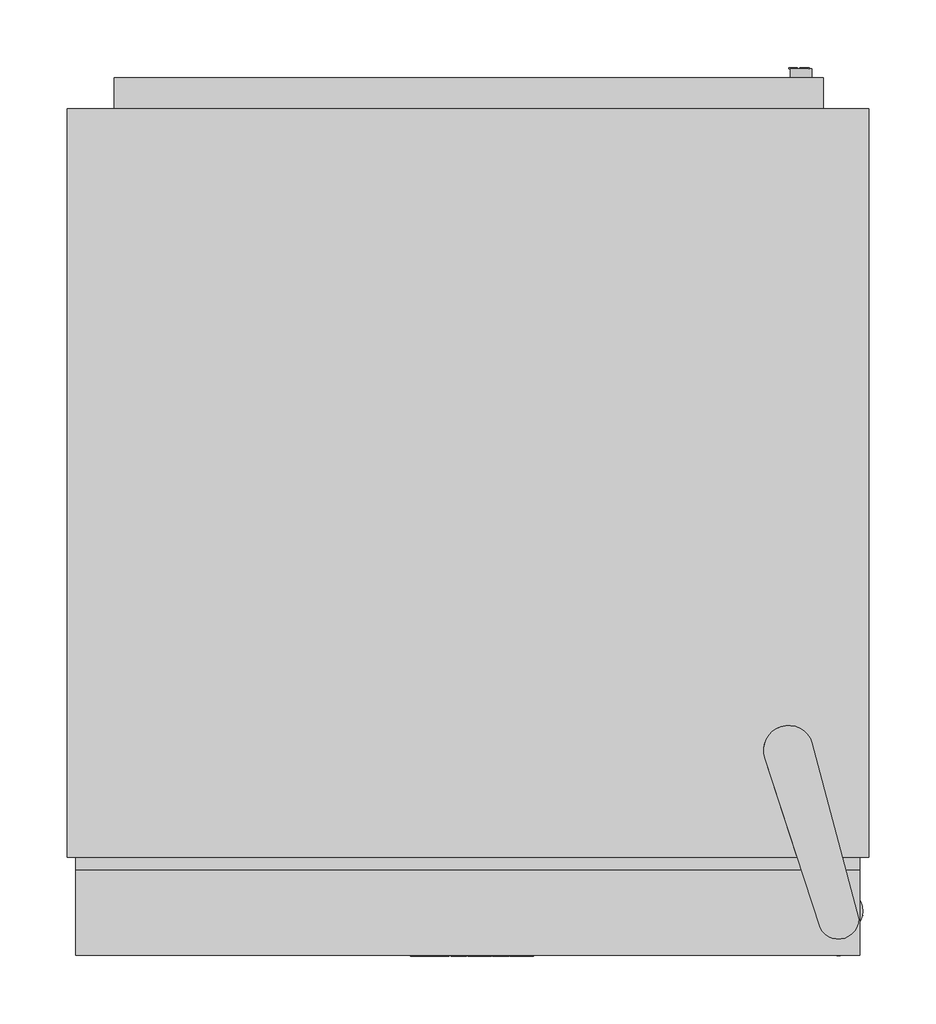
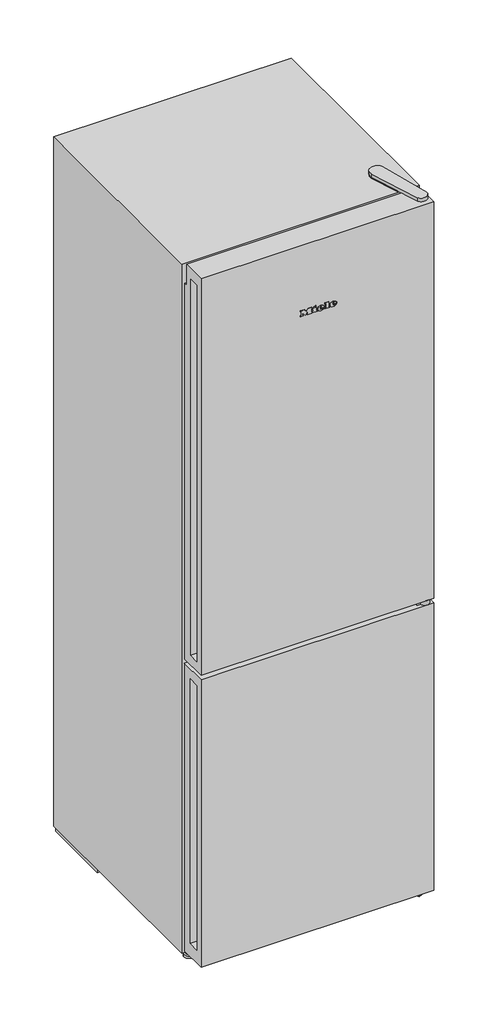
# Not in any storey: 1 proxy.
"""IFC4 building model written with IfcOpenShell, lengths in millimetres."""

import ifcopenshell
import ifcopenshell.guid

model = None  # the IFC model being written
_history = None  # IfcOwnerHistory: only IFC2X3 demands one
_inside = {}  # id of a spatial element -> (the spatial element, [elements in it])
_under = {}  # id of a project, library or spatial element -> (it, [spatial elements below it])
_declared = {}  # id of a project -> (the project, [libraries it declares])
_typed = {}  # id of a type object -> (the type object, [elements of that type])
_made_of = {}  # id of a material, layer set ... -> (it, [elements and type objects made of it])


def new_model(schema):
    """Start an empty IFC model of exactly this schema.

    Asked for "IFC4X3", IfcOpenShell would pick the latest addendum, in which some entities
    have other attributes; the version numbers below select the first issue.
    IFC2X3 requires an IfcOwnerHistory on every rooted entity: one is made here for all.
    """
    global model, _history
    if schema == "IFC4X3":
        model = ifcopenshell.file(schema_version=(4, 3, 0, 0))
    else:
        model = ifcopenshell.file(schema=schema)
    _inside.clear()
    _under.clear()
    _declared.clear()
    _typed.clear()
    _made_of.clear()
    _history = None
    if model.schema == "IFC2X3":
        org = make("IfcOrganization", Name="unknown")
        user = make(
            "IfcPersonAndOrganization",
            ThePerson=make("IfcPerson", FamilyName="unknown"),
            TheOrganization=org,
        )
        app = make(
            "IfcApplication",
            ApplicationDeveloper=org,
            Version="unknown",
            ApplicationFullName="unknown",
            ApplicationIdentifier="unknown",
        )
        _history = make(
            "IfcOwnerHistory",
            OwningUser=user,
            OwningApplication=app,
            ChangeAction="ADDED",
            CreationDate=0,
        )
    return model


def make(cls, **values):
    """One entity of the class cls with the attributes given. An attribute that is None is left unset."""
    return model.create_entity(
        cls, **{name: value for name, value in values.items() if value is not None}
    )


def rooted(cls, **values):
    """An entity with a GlobalId (a new one), such as an element, a storey or a relation."""
    return make(cls, GlobalId=ifcopenshell.guid.new(), OwnerHistory=_history, **values)


def si_unit(unit_type, name, prefix=None):
    """IfcSIUnit, for example si_unit("LENGTHUNIT", "METRE", prefix="MILLI")."""
    return make("IfcSIUnit", UnitType=unit_type, Prefix=prefix, Name=name)


def assignment(units):
    """IfcUnitAssignment: the units of a project."""
    return None if units is None else make("IfcUnitAssignment", Units=units)


def point(xyz):
    """IfcCartesianPoint."""
    return None if xyz is None else make("IfcCartesianPoint", Coordinates=xyz)


def direction(xyz):
    """IfcDirection."""
    return None if xyz is None else make("IfcDirection", DirectionRatios=xyz)


def frame(location, z_axis=None, x_axis=None):
    """IfcAxis2Placement3D, a coordinate frame: its origin and axes. An axis left out is left unset."""
    return make(
        "IfcAxis2Placement3D",
        Location=point(location),
        Axis=direction(z_axis),
        RefDirection=direction(x_axis),
    )


def frame_2d(location, x_axis=None):
    """IfcAxis2Placement2D, a coordinate frame in the plane: its origin and x axis."""
    return make(
        "IfcAxis2Placement2D", Location=point(location), RefDirection=direction(x_axis)
    )


def origin():
    """The frame at (0, 0, 0) with its axes left unset."""
    return frame((0.0, 0.0, 0.0))


def origin_with_axes():
    """The frame at (0, 0, 0) with the z axis (0, 0, 1) and the x axis (1, 0, 0) written out."""
    return frame((0.0, 0.0, 0.0), z_axis=(0.0, 0.0, 1.0), x_axis=(1.0, 0.0, 0.0))


def place(relative_to, where):
    """IfcLocalPlacement: puts the frame where relative to a parent placement (None: the world)."""
    return make(
        "IfcLocalPlacement", PlacementRelTo=relative_to, RelativePlacement=where
    )


def context(
    kind, dimensions, precision=None, world=None, true_north=None, identifier=None
):
    """IfcGeometricRepresentationContext, for example the 3D "Model" context."""
    return make(
        "IfcGeometricRepresentationContext",
        ContextIdentifier=identifier,
        ContextType=kind,
        CoordinateSpaceDimension=dimensions,
        Precision=precision,
        WorldCoordinateSystem=world,
        TrueNorth=true_north,
    )


def project(units=None, contexts=None):
    """IfcProject with its units and contexts."""
    return rooted(
        "IfcProject",
        Name="project",
        RepresentationContexts=contexts,
        UnitsInContext=assignment(units),
    )


def spatial(cls, under=None, at=None, **own):
    """A site, building, storey or space (cls), placed at a placement, below another one or the project."""
    s = rooted(cls, ObjectPlacement=at, **own)
    if under is not None:
        _under.setdefault(under.id(), (under, []))[1].append(s)
    return s


def polyline(points):
    """IfcPolyline through the points."""
    return make("IfcPolyline", Points=[point(p) for p in points])


def circle_curve(where, radius):
    """IfcCircle in the frame where."""
    return make("IfcCircle", Position=where, Radius=radius)


def ellipse_curve(where, semi_axis1, semi_axis2):
    """IfcEllipse in the frame where."""
    return make(
        "IfcEllipse", Position=where, SemiAxis1=semi_axis1, SemiAxis2=semi_axis2
    )


def trimmed(basis, trim1, trim2, sense, master):
    """IfcTrimmedCurve: the piece of a basis curve between two trims."""
    return make(
        "IfcTrimmedCurve",
        BasisCurve=basis,
        Trim1=trim1,
        Trim2=trim2,
        SenseAgreement=sense,
        MasterRepresentation=master,
    )


def segment(curve, same_sense, transition):
    """IfcCompositeCurveSegment."""
    return make(
        "IfcCompositeCurveSegment",
        Transition=transition,
        SameSense=same_sense,
        ParentCurve=curve,
    )


def composite_curve(segments, self_intersect=None):
    """IfcCompositeCurve: segments joined end to end."""
    return make("IfcCompositeCurve", Segments=segments, SelfIntersect=self_intersect)


def outline(outer, holes=None, kind="AREA"):
    """IfcArbitraryClosedProfileDef: a profile drawn as a closed curve; with holes, ...WithVoids."""
    if holes is None:
        return make("IfcArbitraryClosedProfileDef", ProfileType=kind, OuterCurve=outer)
    return make(
        "IfcArbitraryProfileDefWithVoids",
        ProfileType=kind,
        OuterCurve=outer,
        InnerCurves=holes,
    )


def extrude(swept, where, along, depth):
    """IfcExtrudedAreaSolid: the profile swept, set in the frame where, extruded along a direction by depth."""
    return make(
        "IfcExtrudedAreaSolid",
        SweptArea=swept,
        Position=where,
        ExtrudedDirection=direction(along),
        Depth=depth,
    )


def faces_of(points, faces, orient=None, outer=None):
    """IfcFace entities. A face is a list of loops; a loop is a list of indices into points, from 0.

    orient and outer hold one flag for each loop. By default every Orientation is true, the
    first loop of a face is its IfcFaceOuterBound and the others are IfcFaceBound.
    """
    made = []
    for i, loops in enumerate(faces):
        bounds = []
        for j, loop in enumerate(loops):
            is_outer = j == 0 if outer is None else outer[i][j]
            bounds.append(
                make(
                    "IfcFaceOuterBound" if is_outer else "IfcFaceBound",
                    Bound=make("IfcPolyLoop", Polygon=[points[k] for k in loop]),
                    Orientation=True if orient is None else orient[i][j],
                )
            )
        made.append(make("IfcFace", Bounds=bounds))
    return made


def faceted_brep(points, faces, orient=None, outer=None, voids=None):
    """IfcFacetedBrep: a solid bounded by flat faces; with voids (closed shells), ...WithVoids."""
    shared = [point(p) for p in points]
    hull = make("IfcClosedShell", CfsFaces=faces_of(shared, faces, orient, outer))
    if voids is None:
        return make("IfcFacetedBrep", Outer=hull)
    return make(
        "IfcFacetedBrepWithVoids",
        Outer=hull,
        Voids=[
            make(cls, CfsFaces=faces_of(shared, fs, o, b)) for cls, fs, o, b in voids
        ],
    )


def shape(context_of_items, identifier, shape_type, items):
    """IfcShapeRepresentation: the items that make up one representation, for example the "Body"."""
    return make(
        "IfcShapeRepresentation",
        ContextOfItems=context_of_items,
        RepresentationIdentifier=identifier,
        RepresentationType=shape_type,
        Items=items,
    )


def source(mapping_origin, context_of_items, identifier, shape_type, items):
    """IfcRepresentationMap: a shape defined once, which mapped items show again and again."""
    return make(
        "IfcRepresentationMap",
        MappingOrigin=mapping_origin,
        MappedRepresentation=shape(context_of_items, identifier, shape_type, items),
    )


def transform(
    local_origin,
    x_axis=None,
    y_axis=None,
    z_axis=None,
    scale=None,
    scale2=None,
    scale3=None,
    uniform=True,
):
    """IfcCartesianTransformationOperator3D, or its non-uniform kind. x_axis, y_axis, z_axis: its Axis1, 2, 3."""
    if uniform:
        return make(
            "IfcCartesianTransformationOperator3D",
            Axis1=direction(x_axis),
            Axis2=direction(y_axis),
            LocalOrigin=point(local_origin),
            Scale=scale,
            Axis3=direction(z_axis),
        )
    return make(
        "IfcCartesianTransformationOperator3DnonUniform",
        Axis1=direction(x_axis),
        Axis2=direction(y_axis),
        LocalOrigin=point(local_origin),
        Scale=scale,
        Axis3=direction(z_axis),
        Scale2=scale2,
        Scale3=scale3,
    )


def mapped(mapping_source, mapping_target):
    """IfcMappedItem: shows the shape of a source again, moved by a transform."""
    return make(
        "IfcMappedItem", MappingSource=mapping_source, MappingTarget=mapping_target
    )


def made_of(thing, what):
    """Note that an element or type object is made of a material, layer set ...; save() writes the relation."""
    if what is not None:
        _made_of.setdefault(what.id(), (what, []))[1].append(thing)
    return thing


def element(
    cls,
    number,
    at=None,
    inside=None,
    cuts=None,
    type_object=None,
    material=None,
    context=None,
    identifier="Body",
    shape_type=None,
    held_by="IfcProductDefinitionShape",
    body=None,
    shapes=None,
    **own,
):
    """One element of the class cls, such as IfcWall. Its Tag is "e" and its number.

    at: its placement. inside: the storey or other place that contains it. cuts: it is an
    opening in that element (IfcRelVoidsElement). A single representation is given by context,
    identifier, shape_type and body (its items); several are given by shapes. held_by: the class
    of the entity that holds the representations. save() writes the other relations.
    """
    e = rooted(cls, Tag="e%d" % number, ObjectPlacement=at, **own)
    if body is not None:
        shapes = [shape(context, identifier, shape_type, body)]
    if shapes is not None:
        e.Representation = make(held_by, Representations=shapes)
    if inside is not None:
        _inside.setdefault(inside.id(), (inside, []))[1].append(e)
    if cuts is not None:
        rooted(
            "IfcRelVoidsElement", RelatingBuildingElement=cuts, RelatedOpeningElement=e
        )
    if type_object is not None:
        _typed.setdefault(type_object.id(), (type_object, []))[1].append(e)
    return made_of(e, material)


def aggregate(whole, parts):
    """IfcRelAggregates: a whole, such as a stair, and the parts it consists of."""
    return rooted("IfcRelAggregates", RelatingObject=whole, RelatedObjects=parts)


def save(model, path):
    """Write the relations noted so far, then the file.

    IfcRelAggregates (storeys below a building ...), IfcRelContainedInSpatialStructure (elements
    in a storey), IfcRelDefinesByType, IfcRelAssociatesMaterial and IfcRelDeclares: one each for
    every whole, place, type object, material and project.
    """
    for whole, parts in _under.values():
        aggregate(whole, parts)
    for where, things in _inside.values():
        rooted(
            "IfcRelContainedInSpatialStructure",
            RelatedElements=things,
            RelatingStructure=where,
        )
    for kind, things in _typed.values():
        rooted("IfcRelDefinesByType", RelatedObjects=things, RelatingType=kind)
    for what, things in _made_of.values():
        rooted("IfcRelAssociatesMaterial", RelatedObjects=things, RelatingMaterial=what)
    for by, libraries in _declared.values():
        rooted("IfcRelDeclares", RelatingContext=by, RelatedDefinitions=libraries)
    model.write(path)


def plane_surface(at):
    """IfcPlane: the flat surface through the origin of the frame at, square to its z axis."""
    return make("IfcPlane", Position=at)


def cylinder_surface(at, radius):
    """IfcCylindricalSurface: all points at the distance radius from the z axis of the frame at."""
    return make("IfcCylindricalSurface", Position=at, Radius=radius)


def revolved_surface(curve, axis_point, axis_direction):
    """IfcSurfaceOfRevolution: the curve turned about the line through axis_point along axis_direction."""
    return make(
        "IfcSurfaceOfRevolution",
        SweptCurve=make("IfcArbitraryOpenProfileDef", ProfileType="CURVE", Curve=curve),
        AxisPosition=make("IfcAxis1Placement", Location=point(axis_point), Axis=direction(axis_direction)),
    )


def extruded_surface(curve, direction_of_extrusion, depth):
    """IfcSurfaceOfLinearExtrusion: the curve pushed along a direction by depth."""
    return make(
        "IfcSurfaceOfLinearExtrusion",
        SweptCurve=make("IfcArbitraryOpenProfileDef", ProfileType="CURVE", Curve=curve),
        ExtrudedDirection=direction(direction_of_extrusion),
        Depth=depth,
    )


def advanced_brep(points, edges, surfaces, faces):
    """IfcAdvancedBrep: a solid bounded by faces that lie on surfaces and meet in shared edges.

    An edge is (start, end): straight between two places in points (the first is 0);
    or (start, end, curve); or (start, end, curve, False) where it runs against its curve.
    A face is (place in surfaces, loops), or (place, loops, False) where it looks against
    its surface's normal. A loop lists edges by number (the first is 1), with a minus sign
    where the edge is run from its end to its start. The first loop is the outer one.
    """
    corners = [point(p) for p in points]
    vertices = [make("IfcVertexPoint", VertexGeometry=c) for c in corners]
    made = []
    for start, end, *more in edges:
        made.append(
            make(
                "IfcEdgeCurve",
                EdgeStart=vertices[start],
                EdgeEnd=vertices[end],
                EdgeGeometry=more[0] if more else make("IfcPolyline", Points=[corners[start], corners[end]]),
                SameSense=more[1] if len(more) > 1 else True,
            )
        )
    hull = []
    for where, loops, *sense in faces:
        bounds = []
        for j, loop in enumerate(loops):
            ring = [make("IfcOrientedEdge", EdgeElement=made[abs(k) - 1], Orientation=k > 0) for k in loop]
            bounds.append(
                make(
                    "IfcFaceOuterBound" if j == 0 else "IfcFaceBound",
                    Bound=make("IfcEdgeLoop", EdgeList=ring),
                    Orientation=True,
                )
            )
        hull.append(make("IfcAdvancedFace", Bounds=bounds, FaceSurface=surfaces[where], SameSense=sense[0] if sense else True))
    return make("IfcAdvancedBrep", Outer=make("IfcClosedShell", CfsFaces=hull))


def specialty_equipment_d3030a19(model_context):
    return source(origin(), model_context, "Body", "SolidModel", [
        advanced_brep(
        [(38.73, -654.0, 1668.515), (38.73, -654.0, 1670.03), (48.765, -654.0, 1670.03), (31.305, -654.0, 1670.03), (35.43, -654.0, 1664.96), (48.51, -654.0, 1668.515), (43.98, -654.0, 1668.515), (40.41, -654.0, 1666.835), (38.73, -654.0, 1671.95), (38.73, -654.0, 1673.585), (41.295, -654.0, 1673.585), (41.295, -654.0, 1671.95), (38.73, -653.0, 1668.515), (40.41, -653.0, 1666.835), (43.98, -653.0, 1668.515), (48.51, -653.0, 1668.515), (35.43, -653.0, 1664.96), (31.305, -653.0, 1670.03), (48.765, -653.0, 1670.03), (38.73, -653.0, 1670.03), (38.73, -653.0, 1671.95), (41.295, -653.0, 1671.95), (41.295, -653.0, 1673.585), (38.73, -653.0, 1673.585)],
        [
            (0, 1),
            (1, 2),
            (2, 3, ellipse_curve(frame((40.035, -654.0, 1670.03), z_axis=(0.0, -1.0, 0.0), x_axis=(-1.0, 0.0, 0.0)), 8.73, 7.215)),
            (3, 4, circle_curve(frame((37.1100818, -654.0, 1670.54), z_axis=(0.0, -1.0, 0.0), x_axis=(0.0, 0.0, -1.0)), 5.8274415)),
            (4, 5, circle_curve(frame((39.860238, -654.0, 1674.5), z_axis=(0.0, -1.0, 0.0), x_axis=(0.0, 0.0, -1.0)), 10.5184889)),
            (5, 6),
            (6, 7, circle_curve(frame((41.1432353, -654.0, 1669.91), z_axis=(0.0, 1.0, 0.0), x_axis=(0.0, 0.0, -1.0)), 3.1612116)),
            (7, 0, circle_curve(frame((40.41, -654.0, 1668.515), z_axis=(0.0, 1.0, 0.0), x_axis=(0.0, 0.0, -1.0)), 1.68)),
            (8, 9),
            (9, 10, circle_curve(frame((40.0125, -654.0, 1673.585), z_axis=(0.0, 1.0, 0.0), x_axis=(0.0, 0.0, -1.0)), 1.2825)),
            (10, 11),
            (11, 8),
            (12, 13, circle_curve(frame((40.41, -653.0, 1668.515), z_axis=(0.0, -1.0, 0.0), x_axis=(0.0, 0.0, -1.0)), 1.68)),
            (13, 14, circle_curve(frame((41.1432353, -653.0, 1669.91), z_axis=(0.0, -1.0, 0.0), x_axis=(0.0, 0.0, -1.0)), 3.1612116)),
            (14, 15),
            (15, 16, circle_curve(frame((39.860238, -653.0, 1674.5), z_axis=(0.0, 1.0, 0.0), x_axis=(0.0, 0.0, -1.0)), 10.5184889)),
            (16, 17, circle_curve(frame((37.1100818, -653.0, 1670.54), z_axis=(0.0, 1.0, 0.0), x_axis=(0.0, 0.0, -1.0)), 5.8274415)),
            (17, 18, ellipse_curve(frame((40.035, -653.0, 1670.03), z_axis=(0.0, 1.0, 0.0), x_axis=(-1.0, 0.0, 0.0)), 8.73, 7.215)),
            (18, 19),
            (19, 12),
            (20, 21),
            (21, 22),
            (22, 23, circle_curve(frame((40.0125, -653.0, 1673.585), z_axis=(0.0, -1.0, 0.0), x_axis=(0.0, 0.0, -1.0)), 1.2825)),
            (23, 20),
            (0, 12),
            (19, 1),
            (18, 2),
            (5, 15),
            (14, 6),
            (17, 3),
            (13, 7),
            (16, 4),
            (8, 20),
            (23, 9),
            (22, 10),
            (21, 11),
        ],
        [
            plane_surface(frame((38.73, -654.0, 1670.03), z_axis=(0.0, -1.0, 0.0), x_axis=(0.0, 0.0, 1.0))),
            plane_surface(frame((38.73, -653.0, 1670.03), z_axis=(0.0, 1.0, 0.0), x_axis=(0.0, 0.0, -1.0))),
            plane_surface(frame((38.73, -654.0, 1668.515), z_axis=(1.0, 0.0, 0.0), x_axis=(0.0, 1.0, 0.0))),
            plane_surface(frame((38.73, -654.0, 1670.03), z_axis=(0.0, 0.0, -1.0), x_axis=(0.0, 1.0, 0.0))),
            plane_surface(frame((48.51, -654.0, 1668.515), z_axis=(0.0, 0.0, 1.0), x_axis=(0.0, 1.0, 0.0))),
            extruded_surface(trimmed(ellipse_curve(frame((40.035, -652.0, 1670.03), z_axis=(0.0, -1.0, 0.0), x_axis=(-1.0, 0.0, 0.0)), 8.73, 7.215), [point((48.765, -652.0, 1670.03))], [point((31.305, -652.0, 1670.03))], True, "CARTESIAN"), (0.0, -1.0, 0.0), 1.0),
            revolved_surface(polyline([(41.1432353, -653.0, 1666.7487884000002), (41.1432353, -654.0, 1666.7487884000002)]), (41.1432353, -653.0, 1669.91), (0.0, 1.0, 0.0)),
            revolved_surface(polyline([(40.41, -653.0, 1666.835), (40.41, -654.0, 1666.835)]), (40.41, -653.0, 1668.515), (0.0, 1.0, 0.0)),
            cylinder_surface(frame((37.1100818, -653.0, 1670.54), z_axis=(0.0, -1.0, 0.0), x_axis=(0.0, 0.0, -1.0)), 5.8274415),
            cylinder_surface(frame((39.860238, -653.0, 1674.5), z_axis=(0.0, -1.0, 0.0), x_axis=(0.0, 0.0, -1.0)), 10.5184889),
            plane_surface(frame((38.73, -654.0, 1671.95), z_axis=(1.0, 0.0, 0.0), x_axis=(0.0, 1.0, 0.0))),
            revolved_surface(polyline([(40.0125, -653.0, 1672.3025), (40.0125, -654.0, 1672.3025)]), (40.0125, -653.0, 1673.585), (0.0, 1.0, 0.0)),
            plane_surface(frame((41.295, -654.0, 1673.585), z_axis=(-1.0, 0.0, 0.0), x_axis=(0.0, 1.0, 0.0))),
            plane_surface(frame((41.295, -654.0, 1671.95), z_axis=(0.0, 0.0, 1.0), x_axis=(0.0, 1.0, 0.0))),
        ],
        [
            (0, [[1, 2, 3, 4, 5, 6, 7, 8], [9, 10, 11, 12]]),
            (1, [[13, 14, 15, 16, 17, 18, 19, 20], [21, 22, 23, 24]]),
            (2, [[-1, 25, -20, 26]]),
            (3, [[-2, -26, -19, 27]]),
            (4, [[-6, 28, -15, 29]]),
            (5, [[-3, -27, -18, 30]]),
            (6, [[-7, -29, -14, 31]]),
            (7, [[-8, -31, -13, -25]]),
            (8, [[-4, -30, -17, 32]]),
            (9, [[-5, -32, -16, -28]]),
            (10, [[-9, 33, -24, 34]]),
            (11, [[-10, -34, -23, 35]]),
            (12, [[-11, -35, -22, 36]]),
            (13, [[-12, -36, -21, -33]]),
        ],
    ),
        advanced_brep(
        [(7.425, -654.0, 1668.515), (7.425, -654.0, 1670.03), (17.46, -654.0, 1670.03), (0.0, -654.0, 1670.03), (4.125, -654.0, 1664.96), (17.205, -654.0, 1668.515), (12.675, -654.0, 1668.515), (9.105, -654.0, 1666.835), (7.425, -654.0, 1671.95), (7.425, -654.0, 1673.585), (9.99, -654.0, 1673.585), (9.99, -654.0, 1671.95), (7.425, -653.0, 1668.515), (9.105, -653.0, 1666.835), (12.675, -653.0, 1668.515), (17.205, -653.0, 1668.515), (4.125, -653.0, 1664.96), (0.0, -653.0, 1670.03), (17.46, -653.0, 1670.03), (7.425, -653.0, 1670.03), (7.425, -653.0, 1671.95), (9.99, -653.0, 1671.95), (9.99, -653.0, 1673.585), (7.425, -653.0, 1673.585)],
        [
            (0, 1),
            (1, 2),
            (2, 3, ellipse_curve(frame((8.73, -654.0, 1670.03), z_axis=(0.0, -1.0, 0.0), x_axis=(-1.0, 0.0, 0.0)), 8.73, 7.215)),
            (3, 4, circle_curve(frame((5.8050818, -654.0, 1670.54), z_axis=(0.0, -1.0, 0.0), x_axis=(0.0, 0.0, -1.0)), 5.8274415)),
            (4, 5, circle_curve(frame((8.555238, -654.0, 1674.5), z_axis=(0.0, -1.0, 0.0), x_axis=(0.0, 0.0, -1.0)), 10.5184889)),
            (5, 6),
            (6, 7, circle_curve(frame((9.8382353, -654.0, 1669.91), z_axis=(0.0, 1.0, 0.0), x_axis=(0.0, 0.0, -1.0)), 3.1612116)),
            (7, 0, circle_curve(frame((9.105, -654.0, 1668.515), z_axis=(0.0, 1.0, 0.0), x_axis=(0.0, 0.0, -1.0)), 1.68)),
            (8, 9),
            (9, 10, circle_curve(frame((8.7075, -654.0, 1673.585), z_axis=(0.0, 1.0, 0.0), x_axis=(0.0, 0.0, -1.0)), 1.2825)),
            (10, 11),
            (11, 8),
            (12, 13, circle_curve(frame((9.105, -653.0, 1668.515), z_axis=(0.0, -1.0, 0.0), x_axis=(0.0, 0.0, -1.0)), 1.68)),
            (13, 14, circle_curve(frame((9.8382353, -653.0, 1669.91), z_axis=(0.0, -1.0, 0.0), x_axis=(0.0, 0.0, -1.0)), 3.1612116)),
            (14, 15),
            (15, 16, circle_curve(frame((8.555238, -653.0, 1674.5), z_axis=(0.0, 1.0, 0.0), x_axis=(0.0, 0.0, -1.0)), 10.5184889)),
            (16, 17, circle_curve(frame((5.8050818, -653.0, 1670.54), z_axis=(0.0, 1.0, 0.0), x_axis=(0.0, 0.0, -1.0)), 5.8274415)),
            (17, 18, ellipse_curve(frame((8.73, -653.0, 1670.03), z_axis=(0.0, 1.0, 0.0), x_axis=(-1.0, 0.0, 0.0)), 8.73, 7.215)),
            (18, 19),
            (19, 12),
            (20, 21),
            (21, 22),
            (22, 23, circle_curve(frame((8.7075, -653.0, 1673.585), z_axis=(0.0, -1.0, 0.0), x_axis=(0.0, 0.0, -1.0)), 1.2825)),
            (23, 20),
            (0, 12),
            (19, 1),
            (18, 2),
            (5, 15),
            (14, 6),
            (17, 3),
            (13, 7),
            (16, 4),
            (8, 20),
            (23, 9),
            (22, 10),
            (21, 11),
        ],
        [
            plane_surface(frame((7.425, -654.0, 1670.03), z_axis=(0.0, -1.0, 0.0), x_axis=(0.0, 0.0, 1.0))),
            plane_surface(frame((7.425, -653.0, 1670.03), z_axis=(0.0, 1.0, 0.0), x_axis=(0.0, 0.0, -1.0))),
            plane_surface(frame((7.425, -654.0, 1668.515), z_axis=(1.0, 0.0, 0.0), x_axis=(0.0, 1.0, 0.0))),
            plane_surface(frame((7.425, -654.0, 1670.03), z_axis=(0.0, 0.0, -1.0), x_axis=(0.0, 1.0, 0.0))),
            plane_surface(frame((17.205, -654.0, 1668.515), z_axis=(0.0, 0.0, 1.0), x_axis=(0.0, 1.0, 0.0))),
            extruded_surface(trimmed(ellipse_curve(frame((8.73, -652.0, 1670.03), z_axis=(0.0, -1.0, 0.0), x_axis=(-1.0, 0.0, 0.0)), 8.73, 7.215), [point((17.46, -652.0, 1670.03))], [point((0.0, -652.0, 1670.03))], True, "CARTESIAN"), (0.0, -1.0, 0.0), 1.0),
            revolved_surface(polyline([(9.8382353, -653.0, 1666.7487884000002), (9.8382353, -654.0, 1666.7487884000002)]), (9.8382353, -653.0, 1669.91), (0.0, 1.0, 0.0)),
            revolved_surface(polyline([(9.105, -653.0, 1666.835), (9.105, -654.0, 1666.835)]), (9.105, -653.0, 1668.515), (0.0, 1.0, 0.0)),
            cylinder_surface(frame((5.8050818, -653.0, 1670.54), z_axis=(0.0, -1.0, 0.0), x_axis=(0.0, 0.0, -1.0)), 5.8274415),
            cylinder_surface(frame((8.555238, -653.0, 1674.5), z_axis=(0.0, -1.0, 0.0), x_axis=(0.0, 0.0, -1.0)), 10.5184889),
            plane_surface(frame((7.425, -654.0, 1671.95), z_axis=(1.0, 0.0, 0.0), x_axis=(0.0, 1.0, 0.0))),
            revolved_surface(polyline([(8.7075, -653.0, 1672.3025), (8.7075, -654.0, 1672.3025)]), (8.7075, -653.0, 1673.585), (0.0, 1.0, 0.0)),
            plane_surface(frame((9.99, -654.0, 1673.585), z_axis=(-1.0, 0.0, 0.0), x_axis=(0.0, 1.0, 0.0))),
            plane_surface(frame((9.99, -654.0, 1671.95), z_axis=(0.0, 0.0, 1.0), x_axis=(0.0, 1.0, 0.0))),
        ],
        [
            (0, [[1, 2, 3, 4, 5, 6, 7, 8], [9, 10, 11, 12]]),
            (1, [[13, 14, 15, 16, 17, 18, 19, 20], [21, 22, 23, 24]]),
            (2, [[-1, 25, -20, 26]]),
            (3, [[-2, -26, -19, 27]]),
            (4, [[-6, 28, -15, 29]]),
            (5, [[-3, -27, -18, 30]]),
            (6, [[-7, -29, -14, 31]]),
            (7, [[-8, -31, -13, -25]]),
            (8, [[-4, -30, -17, 32]]),
            (9, [[-5, -32, -16, -28]]),
            (10, [[-9, 33, -24, 34]]),
            (11, [[-10, -34, -23, 35]]),
            (12, [[-11, -35, -22, 36]]),
            (13, [[-12, -36, -21, -33]]),
        ],
    ),
        extrude(outline(polyline([(1679.075, -8.97), (1676.645, -7.83), (1679.015, -2.745), (1681.445, -3.87), (1679.075, -8.97)])), frame((0.0, -654.0, 0.0), z_axis=(0.0, 1.0, 0.0), x_axis=(0.0, 0.0, 1.0)), (0.0, 0.0, 1.0), 1.0),
        extrude(outline(polyline([(1676.315, -12.675), (1673.63, -12.675), (1673.63, -10.89), (1667.48, -10.89), (1667.48, -12.675), (1664.96, -12.675), (1664.96, -0.84), (1667.48, -0.84), (1667.48, -2.58), (1676.315, -2.58), (1676.315, -12.675)])), frame((0.0, -654.0, 0.0), z_axis=(0.0, 1.0, 0.0), x_axis=(0.0, 0.0, 1.0)), (0.0, 0.0, 1.0), 1.0),
        extrude(outline(polyline([(1677.515, 18.3), (1677.515, 20.1), (1667.48, 20.1), (1667.48, 18.3), (1664.96, 18.3), (1664.96, 30.465), (1667.48, 30.465), (1667.48, 28.62), (1679.96, 28.62), (1679.96, 18.3), (1677.515, 18.3)])), frame((0.0, -654.0, 0.0), z_axis=(0.0, 1.0, 0.0), x_axis=(0.0, 0.0, 1.0)), (0.0, 0.0, 1.0), 1.0),
        extrude(outline(polyline([(1677.515, -42.57), (1677.515, -40.755), (1667.48, -40.755), (1667.48, -42.57), (1664.96, -42.57), (1664.96, -35.97), (1667.48, -35.97), (1667.48, -37.77), (1673.8161247, -37.77), (1664.96, -31.065), (1674.1502223, -24.33), (1667.48, -24.33), (1667.48, -26.175), (1664.96, -26.175), (1664.96, -14.205), (1667.48, -14.205), (1667.48, -16.11), (1677.515, -16.11), (1677.515, -14.205), (1679.96, -14.205), (1679.96, -23.34), (1674.335, -27.72), (1679.96, -32.115), (1679.96, -42.57), (1677.515, -42.57)])), frame((0.0, -654.0, 0.0), z_axis=(0.0, 1.0, 0.0), x_axis=(0.0, 0.0, 1.0)), (0.0, 0.0, 1.0), 1.0),
        faceted_brep([(298.5, -23.0, 1850.0), (-298.5, -23.0, 1850.0), (-298.5, -580.0, 1850.0), (298.5, -580.0, 1850.0), (298.5, -23.0, 19.0), (298.5, -580.0, 19.0), (-298.5, -580.0, 19.0), (-298.5, -23.0, 19.0), (-234.0, -580.0, 1766.0), (234.0, -580.0, 1766.0), (234.0, -580.0, 827.0), (-234.0, -580.0, 827.0), (-234.0, -580.0, 733.0), (234.0, -580.0, 733.0), (234.0, -580.0, 109.0), (-234.0, -580.0, 109.0), (-122.246, -580.0, 1845.0), (122.246, -580.0, 1845.0), (122.246, -580.0, 1804.5), (-122.246, -580.0, 1804.5), (-234.0, -63.0, 1766.0), (234.0, -63.0, 1766.0), (234.0, -63.0, 827.0), (-234.0, -63.0, 827.0), (-234.0, -63.0, 733.0), (234.0, -63.0, 733.0), (234.0, -63.0, 109.0), (-234.0, -63.0, 109.0), (122.246, -579.0, 1845.0), (-122.246, -579.0, 1845.0), (-122.246, -579.0, 1804.5), (122.246, -579.0, 1804.5)], [[[0, 1, 2, 3]], [[4, 5, 6, 7]], [[1, 0, 4, 7]], [[2, 1, 7, 6]], [[3, 2, 6, 5], [8, 9, 10, 11], [12, 13, 14, 15], [16, 17, 18, 19]], [[0, 3, 5, 4]], [[20, 21, 9, 8]], [[22, 23, 11, 10]], [[21, 20, 23, 22]], [[23, 20, 8, 11]], [[21, 22, 10, 9]], [[24, 25, 13, 12]], [[26, 27, 15, 14]], [[25, 24, 27, 26]], [[27, 24, 12, 15]], [[25, 26, 14, 13]], [[28, 29, 30, 31]], [[29, 28, 17, 16]], [[30, 29, 16, 19]], [[31, 30, 19, 18]], [[28, 31, 18, 17]]]),
        extrude(outline(composite_curve([segment(polyline([(-56.420729, 6.1484915), (-39.9901847, 6.1484915)]), True, "CONTINUOUS"), segment(trimmed(circle_curve(frame_2d((-48.2054569, 8.6902384)), 8.5994869), [point((-39.9901847, 6.1484915))], [point((-56.420729, 6.1484915))], False, "CARTESIAN"), True, "CONTINUOUS")], self_intersect=False)), frame((264.4820102, 0.0, 0.0), z_axis=(1.0, 0.0, 0.0), x_axis=(0.0, 1.0, 0.0)), (0.0, 0.0, 1.0), 17.0656722),
        extrude(outline(composite_curve([segment(trimmed(circle_curve(frame_2d((-274.5, -569.6105025)), 7.4374754), [point((-281.9374754, -569.6105025))], [point((-267.0625246, -569.6105025))], False, "CARTESIAN"), True, "CONTINUOUS"), segment(trimmed(circle_curve(frame_2d((-274.5, -569.6105025)), 7.4374754), [point((-267.0625246, -569.6105025))], [point((-281.9374754, -569.6105025))], False, "CARTESIAN"), True, "CONTINUOUS")], self_intersect=False)), frame((0.0, 0.0, 6.1484915), z_axis=(0.0, 0.0, 1.0), x_axis=(1.0, 0.0, 0.0)), (0.0, 0.0, 1.0), 12.8515085),
        extrude(outline(composite_curve([segment(trimmed(circle_curve(frame_2d((-274.5, -569.7060517)), 12.797253), [point((-287.297253, -569.7060517))], [point((-261.702747, -569.7060517))], False, "CARTESIAN"), True, "CONTINUOUS"), segment(trimmed(circle_curve(frame_2d((-274.5, -569.7060517)), 12.797253), [point((-261.702747, -569.7060517))], [point((-287.297253, -569.7060517))], False, "CARTESIAN"), True, "CONTINUOUS")], self_intersect=False)), origin_with_axes(), (0.0, 0.0, 1.0), 6.1484915),
        extrude(outline(polyline([(-62.5, -580.0), (-81.5, -580.0), (-81.5, -579.0), (-62.5, -579.0), (-62.5, -580.0)])), frame((0.0, 0.0, 1819.0), z_axis=(0.0, 0.0, 1.0), x_axis=(1.0, 0.0, 0.0)), (0.0, 0.0, 1.0), 11.0),
        extrude(outline(polyline([(277.7112582, -200.120515), (251.0987637, -200.120515), (251.0987637, -87.2190022), (277.7112582, -87.2190022), (277.7112582, -200.120515)])), origin_with_axes(), (0.0, 0.0, 1.0), 6.1484915),
        extrude(outline(polyline([(251.0987637, -26.8205259), (291.0987637, -26.8205259), (291.0987637, -206.6206354), (251.0987637, -206.6206354), (251.0987637, -26.8205259)])), frame((0.0, 0.0, 6.1484915), z_axis=(0.0, 0.0, 1.0), x_axis=(1.0, 0.0, 0.0)), (0.0, 0.0, 1.0), 12.8515085),
        extrude(outline(composite_curve([segment(polyline([(-56.420729, 6.1484915), (-39.9901847, 6.1484915)]), True, "CONTINUOUS"), segment(trimmed(circle_curve(frame_2d((-48.2054569, 8.6902384)), 8.5994869), [point((-39.9901847, 6.1484915))], [point((-56.420729, 6.1484915))], False, "CARTESIAN"), True, "CONTINUOUS")], self_intersect=False)), frame((-281.5476824, 0.0, 0.0), z_axis=(1.0, 0.0, 0.0), x_axis=(0.0, 1.0, 0.0)), (0.0, 0.0, 1.0), 17.0656722),
        extrude(outline(polyline([(-277.7112582, -200.120515), (-277.7112582, -87.2190022), (-252.7112582, -87.2190022), (-252.7112582, -200.120515), (-277.7112582, -200.120515)])), origin_with_axes(), (0.0, 0.0, 1.0), 6.1484915),
        extrude(outline(polyline([(-252.7112582, -26.8205259), (-252.7112582, -206.6206354), (-295.0984336, -206.6206354), (-295.0984336, -26.8205259), (-252.7112582, -26.8205259)])), frame((0.0, 0.0, 6.1484915), z_axis=(0.0, 0.0, 1.0), x_axis=(1.0, 0.0, 0.0)), (0.0, 0.0, 1.0), 12.8515085),
        extrude(outline(polyline([(244.9015664, -32.3201), (244.9015664, -206.6206354), (-245.4999985, -206.6206354), (-245.4999985, -32.3201), (244.9015664, -32.3201)])), frame((0.0, 0.0, 6.1484915), z_axis=(0.0, 0.0, 1.0), x_axis=(1.0, 0.0, 0.0)), (0.0, 0.0, 1.0), 12.8515085),
        extrude(outline(polyline([(264.8461624, -23.0), (-263.5, -23.0), (-263.5, 0.0), (264.8461624, 0.0), (264.8461624, -23.0)])), frame((0.0, 0.0, 231.5932438), z_axis=(0.0, 0.0, 1.0), x_axis=(1.0, 0.0, 0.0)), (0.0, 0.0, 1.0), 1494.4067562),
        extrude(outline(polyline([(188.0989562, 254.5064154), (198.1445872, 254.5064154), (198.1445872, 247.2861181), (196.8888834, 247.2861181), (196.8888834, 253.2507116), (193.9065866, 253.2507116), (193.9065866, 247.6000441), (192.6508828, 247.6000441), (192.6508828, 253.2507116), (189.3546601, 253.2507116), (189.3546601, 247.1291552), (188.0989562, 247.1291552), (188.0989562, 254.5064154)])), frame((0.0, 7.0, 0.0), z_axis=(0.0, 1.0, 0.0), x_axis=(0.0, 0.0, 1.0)), (0.0, 0.0, 1.0), 1.0),
        extrude(outline(polyline([(188.0989562, 245.2455993), (198.1445872, 245.2455993), (198.1445872, 243.9898955), (189.3546601, 243.9898955), (189.3546601, 238.96708), (188.0989562, 238.96708), (188.0989562, 245.2455993)])), frame((0.0, 7.0, 0.0), z_axis=(0.0, 1.0, 0.0), x_axis=(0.0, 0.0, 1.0)), (0.0, 0.0, 1.0), 1.0),
        extrude(outline(composite_curve([segment(trimmed(circle_curve(frame_2d((193.0, 248.0)), 8.0), [point((193.0, 240.0))], [point((193.0, 256.0))], False, "CARTESIAN"), True, "CONTINUOUS"), segment(trimmed(circle_curve(frame_2d((193.0, 248.0)), 8.0), [point((193.0, 256.0))], [point((193.0, 240.0))], False, "CARTESIAN"), True, "CONTINUOUS")], self_intersect=False)), frame((0.0, -23.0, 0.0), z_axis=(0.0, 1.0, 0.0), x_axis=(0.0, 0.0, 1.0)), (0.0, 0.0, 1.0), 30.0),
        extrude(outline(polyline([(255.1369404, -644.0500518), (255.1369404, -589.0), (292.0, -589.0), (292.0, -629.2312633), (263.6572781, -629.2312633), (263.6572781, -644.0500518), (255.1369404, -644.0500518)])), frame((0.0, 0.0, 788.0), z_axis=(0.0, 0.0, 1.0), x_axis=(1.0, 0.0, 0.0)), (0.0, 0.0, 1.0), 11.7998428),
        extrude(outline(composite_curve([segment(trimmed(circle_curve(frame_2d((276.0, -641.3479469)), 12.0), [point((264.0, -641.3479469))], [point((288.0, -641.3479469))], False, "CARTESIAN"), True, "CONTINUOUS"), segment(trimmed(circle_curve(frame_2d((276.0, -641.3479469)), 12.0), [point((288.0, -641.3479469))], [point((264.0, -641.3479469))], False, "CARTESIAN"), True, "CONTINUOUS")], self_intersect=False)), frame((0.0, 0.0, 788.0), z_axis=(0.0, 0.0, 1.0), x_axis=(1.0, 0.0, 0.0)), (0.0, 0.0, 1.0), 11.7998428),
        faceted_brep([(292.0, -653.0, 788.0), (-292.0, -653.0, 788.0), (-292.0, -653.0, 24.0), (292.0, -653.0, 24.0), (292.0, -580.0, 788.0), (292.0, -580.0, 24.0), (-292.0, -580.0, 24.0), (-292.0, -580.0, 788.0), (-292.0, -605.0, 58.5498157), (-292.0, -605.0, 761.4498287), (-292.0, -635.0, 761.4498287), (-292.0, -635.0, 58.5498157), (-268.2740132, -635.0, 761.4498287), (-268.2740132, -635.0, 58.5498157), (-268.2740132, -605.0, 761.4498287), (-268.2740132, -605.0, 58.5498157)], [[[0, 1, 2, 3]], [[4, 5, 6, 7]], [[1, 0, 4, 7]], [[2, 1, 7, 6], [8, 9, 10, 11]], [[3, 2, 6, 5]], [[0, 3, 5, 4]], [[12, 13, 11, 10]], [[14, 12, 10, 9]], [[15, 13, 12, 14]], [[15, 14, 9, 8]], [[13, 15, 8, 11]]]),
        extrude(outline(composite_curve([segment(trimmed(circle_curve(frame_2d((255.0, -586.0)), 13.0), [point((242.0, -586.0))], [point((268.0, -586.0))], False, "CARTESIAN"), True, "CONTINUOUS"), segment(trimmed(circle_curve(frame_2d((255.0, -586.0)), 13.0), [point((268.0, -586.0))], [point((242.0, -586.0))], False, "CARTESIAN"), True, "CONTINUOUS")], self_intersect=False)), origin_with_axes(), (0.0, 0.0, 1.0), 6.9998158),
        extrude(outline(composite_curve([segment(trimmed(circle_curve(frame_2d((276.9946442, -619.9124361)), 17.0), [point((259.9946442, -619.9124361))], [point((293.9946442, -619.9124361))], False, "CARTESIAN"), True, "CONTINUOUS"), segment(trimmed(circle_curve(frame_2d((276.9946442, -619.9124361)), 17.0), [point((293.9946442, -619.9124361))], [point((259.9946442, -619.9124361))], False, "CARTESIAN"), True, "CONTINUOUS")], self_intersect=False)), frame((0.0, 0.0, 18.8964761), z_axis=(0.0, 0.0, 1.0), x_axis=(1.0, 0.0, 0.0)), (0.0, 0.0, 1.0), 5.1035239),
        extrude(outline(polyline([(294.0677389, -623.5579978), (264.4272141, -637.8371511), (205.1568838, -531.0918017), (240.1598028, -511.6564392), (294.0677389, -623.5579978)])), frame((0.0, 0.0, 6.9998158), z_axis=(0.0, 0.0, 1.0), x_axis=(1.0, 0.0, 0.0)), (0.0, 0.0, 1.0), 11.8966603),
        extrude(outline(composite_curve([segment(polyline([(276.4367298, -571.0430426), (245.1616399, -579.2864892), (221.3582255, -506.2033511)]), True, "CONTINUOUS"), segment(trimmed(circle_curve(frame_2d((238.85062, -500.5060216)), 18.3968321), [point((221.3582255, -506.2033511))], [point((256.3428386, -494.8081519))], False, "CARTESIAN"), True, "CONTINUOUS"), segment(polyline([(256.3428386, -494.8081519), (276.4367298, -571.0430426)]), True, "CONTINUOUS")], self_intersect=False)), frame((0.0, 0.0, 1849.9998428), z_axis=(0.0, 0.0, 1.0), x_axis=(1.0, 0.0, 0.0)), (0.0, 0.0, 1.0), 2.8),
        extrude(outline(composite_curve([segment(polyline([(262.5128912, -632.5530567), (221.3582255, -506.2033511)]), True, "CONTINUOUS"), segment(trimmed(circle_curve(frame_2d((238.850532, -500.5057515)), 18.3968321), [point((221.3582255, -506.2033511))], [point((256.3428386, -494.8081519))], False, "CARTESIAN"), True, "CONTINUOUS"), segment(polyline([(256.3428386, -494.8081519), (291.0205136, -626.3729512)]), True, "CONTINUOUS"), segment(trimmed(circle_curve(frame_2d((276.0339956, -626.0831703)), 14.9893193), [point((291.0205136, -626.3729512))], [point((262.5128912, -632.5530567))], False, "CARTESIAN"), True, "CONTINUOUS")], self_intersect=False)), frame((0.0, 0.0, 1852.7998428), z_axis=(0.0, 0.0, 1.0), x_axis=(1.0, 0.0, 0.0)), (0.0, 0.0, 1.0), 9.2001572),
        extrude(outline(polyline([(292.0, -589.0), (162.9885295, -589.0), (162.9885295, -580.0), (292.0, -580.0), (292.0, -589.0)])), frame((0.0, 0.0, 788.0), z_axis=(0.0, 0.0, 1.0), x_axis=(1.0, 0.0, 0.0)), (0.0, 0.0, 1.0), 11.7998428),
        faceted_brep([(292.0, -653.0, 1852.7998428), (-292.0, -653.0, 1852.7998428), (-292.0, -653.0, 799.7998428), (292.0, -653.0, 799.7998428), (292.0, -580.0, 799.7998428), (-292.0, -580.0, 799.7998428), (-292.0, -580.0, 1796.7998428), (292.0, -580.0, 1796.7998428), (292.0, -589.8392038, 1852.7998428), (-292.0, -589.8392038, 1852.7998428), (-292.0, -589.8392038, 1796.7998428), (-292.0, -635.0, 1824.0), (-292.0, -635.0, 825.268066), (-292.0, -607.2616501, 825.268066), (-292.0, -607.2616501, 1824.0), (292.0, -589.8392038, 1796.7998428), (-268.2740132, -635.0, 825.268066), (-268.2740132, -607.2616501, 825.268066), (-268.2740132, -635.0, 1824.0), (-268.2740132, -607.2616501, 1824.0)], [[[0, 1, 2, 3]], [[4, 5, 6, 7]], [[1, 0, 8, 9]], [[2, 1, 9, 10, 6, 5], [11, 12, 13, 14]], [[3, 2, 5, 4]], [[0, 3, 4, 7, 15, 8]], [[15, 10, 9, 8]], [[10, 15, 7, 6]], [[16, 17, 13, 12]], [[18, 16, 12, 11]], [[18, 19, 17, 16]], [[17, 19, 14, 13]], [[19, 18, 11, 14]]]),
        advanced_brep(
        [(116.8121148, -580.0, 1831.384), (116.8121148, -580.0, 1832.192), (122.1641148, -580.0, 1832.192), (112.8521148, -580.0, 1832.192), (115.0521148, -580.0, 1829.488), (122.0281148, -580.0, 1831.384), (119.6121148, -580.0, 1831.384), (117.7081148, -580.0, 1830.488), (116.8121148, -580.0, 1833.216), (116.8121148, -580.0, 1834.088), (118.1801148, -580.0, 1834.088), (118.1801148, -580.0, 1833.216), (116.8121148, -579.0, 1831.384), (117.7081148, -579.0, 1830.488), (119.6121148, -579.0, 1831.384), (122.0281148, -579.0, 1831.384), (115.0521148, -579.0, 1829.488), (112.8521148, -579.0, 1832.192), (122.1641148, -579.0, 1832.192), (116.8121148, -579.0, 1832.192), (116.8121148, -579.0, 1833.216), (118.1801148, -579.0, 1833.216), (118.1801148, -579.0, 1834.088), (116.8121148, -579.0, 1834.088)],
        [
            (0, 1),
            (1, 2),
            (2, 3, ellipse_curve(frame((117.5081148, -580.0, 1832.192), z_axis=(0.0, -1.0, 0.0), x_axis=(-1.0, 0.0, 0.0)), 4.656, 3.848)),
            (3, 4, circle_curve(frame((115.9481584, -580.0, 1832.464), z_axis=(0.0, -1.0, 0.0), x_axis=(0.0, 0.0, -1.0)), 3.1079688)),
            (4, 5, circle_curve(frame((117.4149084, -580.0, 1834.576), z_axis=(0.0, -1.0, 0.0), x_axis=(0.0, 0.0, -1.0)), 5.6098607)),
            (5, 6),
            (6, 7, circle_curve(frame((118.0991736, -580.0, 1832.128), z_axis=(0.0, 1.0, 0.0), x_axis=(0.0, 0.0, -1.0)), 1.6859795)),
            (7, 0, circle_curve(frame((117.7081148, -580.0, 1831.384), z_axis=(0.0, 1.0, 0.0), x_axis=(0.0, 0.0, -1.0)), 0.896)),
            (8, 9),
            (9, 10, circle_curve(frame((117.4961148, -580.0, 1834.088), z_axis=(0.0, 1.0, 0.0), x_axis=(0.0, 0.0, -1.0)), 0.684)),
            (10, 11),
            (11, 8),
            (12, 13, circle_curve(frame((117.7081148, -579.0, 1831.384), z_axis=(0.0, -1.0, 0.0), x_axis=(0.0, 0.0, -1.0)), 0.896)),
            (13, 14, circle_curve(frame((118.0991736, -579.0, 1832.128), z_axis=(0.0, -1.0, 0.0), x_axis=(0.0, 0.0, -1.0)), 1.6859795)),
            (14, 15),
            (15, 16, circle_curve(frame((117.4149084, -579.0, 1834.576), z_axis=(0.0, 1.0, 0.0), x_axis=(0.0, 0.0, -1.0)), 5.6098607)),
            (16, 17, circle_curve(frame((115.9481584, -579.0, 1832.464), z_axis=(0.0, 1.0, 0.0), x_axis=(0.0, 0.0, -1.0)), 3.1079688)),
            (17, 18, ellipse_curve(frame((117.5081148, -579.0, 1832.192), z_axis=(0.0, 1.0, 0.0), x_axis=(-1.0, 0.0, 0.0)), 4.656, 3.848)),
            (18, 19),
            (19, 12),
            (20, 21),
            (21, 22),
            (22, 23, circle_curve(frame((117.4961148, -579.0, 1834.088), z_axis=(0.0, -1.0, 0.0), x_axis=(0.0, 0.0, -1.0)), 0.684)),
            (23, 20),
            (0, 12),
            (19, 1),
            (18, 2),
            (5, 15),
            (14, 6),
            (17, 3),
            (13, 7),
            (16, 4),
            (8, 20),
            (23, 9),
            (22, 10),
            (21, 11),
        ],
        [
            plane_surface(frame((116.8121148, -580.0, 1832.192), z_axis=(0.0, -1.0, 0.0), x_axis=(0.0, 0.0, 1.0))),
            plane_surface(frame((116.8121148, -579.0, 1832.192), z_axis=(0.0, 1.0, 0.0), x_axis=(0.0, 0.0, -1.0))),
            plane_surface(frame((116.8121148, -580.0, 1831.384), z_axis=(1.0, 0.0, 0.0), x_axis=(0.0, 1.0, 0.0))),
            plane_surface(frame((116.8121148, -580.0, 1832.192), z_axis=(0.0, 0.0, -1.0), x_axis=(0.0, 1.0, 0.0))),
            plane_surface(frame((122.0281148, -580.0, 1831.384), z_axis=(0.0, 0.0, 1.0), x_axis=(0.0, 1.0, 0.0))),
            extruded_surface(trimmed(ellipse_curve(frame((117.5081148, -578.0, 1832.192), z_axis=(0.0, -1.0, 0.0), x_axis=(-1.0, 0.0, 0.0)), 4.656, 3.848), [point((122.1641148, -578.0, 1832.192))], [point((112.8521148, -578.0, 1832.192))], True, "CARTESIAN"), (0.0, -1.0, 0.0), 1.0),
            revolved_surface(polyline([(118.0991736, -579.0, 1830.4420205), (118.0991736, -580.0, 1830.4420205)]), (118.0991736, -579.0, 1832.128), (0.0, 1.0, 0.0)),
            revolved_surface(polyline([(117.7081148, -579.0, 1830.488), (117.7081148, -580.0, 1830.488)]), (117.7081148, -579.0, 1831.384), (0.0, 1.0, 0.0)),
            cylinder_surface(frame((115.9481584, -579.0, 1832.464), z_axis=(0.0, -1.0, 0.0), x_axis=(0.0, 0.0, -1.0)), 3.1079688),
            cylinder_surface(frame((117.4149084, -579.0, 1834.576), z_axis=(0.0, -1.0, 0.0), x_axis=(0.0, 0.0, -1.0)), 5.6098607),
            plane_surface(frame((116.8121148, -580.0, 1833.216), z_axis=(1.0, 0.0, 0.0), x_axis=(0.0, 1.0, 0.0))),
            revolved_surface(polyline([(117.4961148, -579.0, 1833.404), (117.4961148, -580.0, 1833.404)]), (117.4961148, -579.0, 1834.088), (0.0, 1.0, 0.0)),
            plane_surface(frame((118.1801148, -580.0, 1834.088), z_axis=(-1.0, 0.0, 0.0), x_axis=(0.0, 1.0, 0.0))),
            plane_surface(frame((118.1801148, -580.0, 1833.216), z_axis=(0.0, 0.0, 1.0), x_axis=(0.0, 1.0, 0.0))),
        ],
        [
            (0, [[1, 2, 3, 4, 5, 6, 7, 8], [9, 10, 11, 12]]),
            (1, [[13, 14, 15, 16, 17, 18, 19, 20], [21, 22, 23, 24]]),
            (2, [[-1, 25, -20, 26]]),
            (3, [[-2, -26, -19, 27]]),
            (4, [[-6, 28, -15, 29]]),
            (5, [[-3, -27, -18, 30]]),
            (6, [[-7, -29, -14, 31]]),
            (7, [[-8, -31, -13, -25]]),
            (8, [[-4, -30, -17, 32]]),
            (9, [[-5, -32, -16, -28]]),
            (10, [[-9, 33, -24, 34]]),
            (11, [[-10, -34, -23, 35]]),
            (12, [[-11, -35, -22, 36]]),
            (13, [[-12, -36, -21, -33]]),
        ],
    ),
        advanced_brep(
        [(100.1161148, -580.0, 1831.384), (100.1161148, -580.0, 1832.192), (105.4681148, -580.0, 1832.192), (96.1561148, -580.0, 1832.192), (98.3561148, -580.0, 1829.488), (105.3321148, -580.0, 1831.384), (102.9161148, -580.0, 1831.384), (101.0121148, -580.0, 1830.488), (100.1161148, -580.0, 1833.216), (100.1161148, -580.0, 1834.088), (101.4841148, -580.0, 1834.088), (101.4841148, -580.0, 1833.216), (100.1161148, -579.0, 1831.384), (101.0121148, -579.0, 1830.488), (102.9161148, -579.0, 1831.384), (105.3321148, -579.0, 1831.384), (98.3561148, -579.0, 1829.488), (96.1561148, -579.0, 1832.192), (105.4681148, -579.0, 1832.192), (100.1161148, -579.0, 1832.192), (100.1161148, -579.0, 1833.216), (101.4841148, -579.0, 1833.216), (101.4841148, -579.0, 1834.088), (100.1161148, -579.0, 1834.088)],
        [
            (0, 1),
            (1, 2),
            (2, 3, ellipse_curve(frame((100.8121148, -580.0, 1832.192), z_axis=(0.0, -1.0, 0.0), x_axis=(-1.0, 0.0, 0.0)), 4.656, 3.848)),
            (3, 4, circle_curve(frame((99.2521584, -580.0, 1832.464), z_axis=(0.0, -1.0, 0.0), x_axis=(0.0, 0.0, -1.0)), 3.1079688)),
            (4, 5, circle_curve(frame((100.7189084, -580.0, 1834.576), z_axis=(0.0, -1.0, 0.0), x_axis=(0.0, 0.0, -1.0)), 5.6098607)),
            (5, 6),
            (6, 7, circle_curve(frame((101.4031736, -580.0, 1832.128), z_axis=(0.0, 1.0, 0.0), x_axis=(0.0, 0.0, -1.0)), 1.6859795)),
            (7, 0, circle_curve(frame((101.0121148, -580.0, 1831.384), z_axis=(0.0, 1.0, 0.0), x_axis=(0.0, 0.0, -1.0)), 0.896)),
            (8, 9),
            (9, 10, circle_curve(frame((100.8001148, -580.0, 1834.088), z_axis=(0.0, 1.0, 0.0), x_axis=(0.0, 0.0, -1.0)), 0.684)),
            (10, 11),
            (11, 8),
            (12, 13, circle_curve(frame((101.0121148, -579.0, 1831.384), z_axis=(0.0, -1.0, 0.0), x_axis=(0.0, 0.0, -1.0)), 0.896)),
            (13, 14, circle_curve(frame((101.4031736, -579.0, 1832.128), z_axis=(0.0, -1.0, 0.0), x_axis=(0.0, 0.0, -1.0)), 1.6859795)),
            (14, 15),
            (15, 16, circle_curve(frame((100.7189084, -579.0, 1834.576), z_axis=(0.0, 1.0, 0.0), x_axis=(0.0, 0.0, -1.0)), 5.6098607)),
            (16, 17, circle_curve(frame((99.2521584, -579.0, 1832.464), z_axis=(0.0, 1.0, 0.0), x_axis=(0.0, 0.0, -1.0)), 3.1079688)),
            (17, 18, ellipse_curve(frame((100.8121148, -579.0, 1832.192), z_axis=(0.0, 1.0, 0.0), x_axis=(-1.0, 0.0, 0.0)), 4.656, 3.848)),
            (18, 19),
            (19, 12),
            (20, 21),
            (21, 22),
            (22, 23, circle_curve(frame((100.8001148, -579.0, 1834.088), z_axis=(0.0, -1.0, 0.0), x_axis=(0.0, 0.0, -1.0)), 0.684)),
            (23, 20),
            (0, 12),
            (19, 1),
            (18, 2),
            (5, 15),
            (14, 6),
            (17, 3),
            (13, 7),
            (16, 4),
            (8, 20),
            (23, 9),
            (22, 10),
            (21, 11),
        ],
        [
            plane_surface(frame((100.1161148, -580.0, 1832.192), z_axis=(0.0, -1.0, 0.0), x_axis=(0.0, 0.0, 1.0))),
            plane_surface(frame((100.1161148, -579.0, 1832.192), z_axis=(0.0, 1.0, 0.0), x_axis=(0.0, 0.0, -1.0))),
            plane_surface(frame((100.1161148, -580.0, 1831.384), z_axis=(1.0, 0.0, 0.0), x_axis=(0.0, 1.0, 0.0))),
            plane_surface(frame((100.1161148, -580.0, 1832.192), z_axis=(0.0, 0.0, -1.0), x_axis=(0.0, 1.0, 0.0))),
            plane_surface(frame((105.3321148, -580.0, 1831.384), z_axis=(0.0, 0.0, 1.0), x_axis=(0.0, 1.0, 0.0))),
            extruded_surface(trimmed(ellipse_curve(frame((100.8121148, -578.0, 1832.192), z_axis=(0.0, -1.0, 0.0), x_axis=(-1.0, 0.0, 0.0)), 4.656, 3.848), [point((105.4681148, -578.0, 1832.192))], [point((96.1561148, -578.0, 1832.192))], True, "CARTESIAN"), (0.0, -1.0, 0.0), 1.0),
            revolved_surface(polyline([(101.4031736, -579.0, 1830.4420205), (101.4031736, -580.0, 1830.4420205)]), (101.4031736, -579.0, 1832.128), (0.0, 1.0, 0.0)),
            revolved_surface(polyline([(101.0121148, -579.0, 1830.488), (101.0121148, -580.0, 1830.488)]), (101.0121148, -579.0, 1831.384), (0.0, 1.0, 0.0)),
            cylinder_surface(frame((99.2521584, -579.0, 1832.464), z_axis=(0.0, -1.0, 0.0), x_axis=(0.0, 0.0, -1.0)), 3.1079688),
            cylinder_surface(frame((100.7189084, -579.0, 1834.576), z_axis=(0.0, -1.0, 0.0), x_axis=(0.0, 0.0, -1.0)), 5.6098607),
            plane_surface(frame((100.1161148, -580.0, 1833.216), z_axis=(1.0, 0.0, 0.0), x_axis=(0.0, 1.0, 0.0))),
            revolved_surface(polyline([(100.8001148, -579.0, 1833.404), (100.8001148, -580.0, 1833.404)]), (100.8001148, -579.0, 1834.088), (0.0, 1.0, 0.0)),
            plane_surface(frame((101.4841148, -580.0, 1834.088), z_axis=(-1.0, 0.0, 0.0), x_axis=(0.0, 1.0, 0.0))),
            plane_surface(frame((101.4841148, -580.0, 1833.216), z_axis=(0.0, 0.0, 1.0), x_axis=(0.0, 1.0, 0.0))),
        ],
        [
            (0, [[1, 2, 3, 4, 5, 6, 7, 8], [9, 10, 11, 12]]),
            (1, [[13, 14, 15, 16, 17, 18, 19, 20], [21, 22, 23, 24]]),
            (2, [[-1, 25, -20, 26]]),
            (3, [[-2, -26, -19, 27]]),
            (4, [[-6, 28, -15, 29]]),
            (5, [[-3, -27, -18, 30]]),
            (6, [[-7, -29, -14, 31]]),
            (7, [[-8, -31, -13, -25]]),
            (8, [[-4, -30, -17, 32]]),
            (9, [[-5, -32, -16, -28]]),
            (10, [[-9, 33, -24, 34]]),
            (11, [[-10, -34, -23, 35]]),
            (12, [[-11, -35, -22, 36]]),
            (13, [[-12, -36, -21, -33]]),
        ],
    ),
        extrude(outline(polyline([(1837.016, 91.3721148), (1835.72, 91.9801148), (1836.984, 94.6921148), (1838.28, 94.0921148), (1837.016, 91.3721148)])), frame((0.0, -580.0, 0.0), z_axis=(0.0, 1.0, 0.0), x_axis=(0.0, 0.0, 1.0)), (0.0, 0.0, 1.0), 1.0),
        extrude(outline(polyline([(1835.544, 89.3961148), (1834.112, 89.3961148), (1834.112, 90.3481148), (1830.832, 90.3481148), (1830.832, 89.3961148), (1829.488, 89.3961148), (1829.488, 95.7081148), (1830.832, 95.7081148), (1830.832, 94.7801148), (1835.544, 94.7801148), (1835.544, 89.3961148)])), frame((0.0, -580.0, 0.0), z_axis=(0.0, 1.0, 0.0), x_axis=(0.0, 0.0, 1.0)), (0.0, 0.0, 1.0), 1.0),
        extrude(outline(polyline([(1836.184, 105.9161148), (1836.184, 106.8761148), (1830.832, 106.8761148), (1830.832, 105.9161148), (1829.488, 105.9161148), (1829.488, 112.4041148), (1830.832, 112.4041148), (1830.832, 111.4201148), (1837.488, 111.4201148), (1837.488, 105.9161148), (1836.184, 105.9161148)])), frame((0.0, -580.0, 0.0), z_axis=(0.0, 1.0, 0.0), x_axis=(0.0, 0.0, 1.0)), (0.0, 0.0, 1.0), 1.0),
        extrude(outline(polyline([(1836.184, 73.4521148), (1836.184, 74.4201148), (1830.832, 74.4201148), (1830.832, 73.4521148), (1829.488, 73.4521148), (1829.488, 76.9721148), (1830.832, 76.9721148), (1830.832, 76.0121148), (1834.2351247, 76.0121148), (1829.488, 79.5881148), (1834.3032223, 83.1801148), (1830.832, 83.1801148), (1830.832, 82.1961148), (1829.488, 82.1961148), (1829.488, 88.5801148), (1830.832, 88.5801148), (1830.832, 87.5641148), (1836.184, 87.5641148), (1836.184, 88.5801148), (1837.488, 88.5801148), (1837.488, 83.7081148), (1834.488, 81.3721148), (1837.488, 79.0281148), (1837.488, 73.4521148), (1836.184, 73.4521148)])), frame((0.0, -580.0, 0.0), z_axis=(0.0, 1.0, 0.0), x_axis=(0.0, 0.0, 1.0)), (0.0, 0.0, 1.0), 1.0),
    ])


model = new_model("IFC4")

# Units and contexts
model_context = context("Model", 3, world=origin())
ifc_project = project(units=[si_unit("LENGTHUNIT", "METRE", prefix="MILLI")], contexts=[model_context])

# Site, building
site = spatial("IfcSite", under=ifc_project)
building = spatial("IfcBuilding", under=site)

# Proxy
placement = place(None, origin())
specialty_equipment_shape = specialty_equipment_d3030a19(model_context)
element("IfcBuildingElementProxy", 1, Name="12108880_OER_KDN4174E_EL : 38417451_OER_12108880_KDN4174E_EL", ObjectType="12108880_OER_KDN4174E_EL : 38417451_OER_12108880_KDN4174E_EL", at=placement, inside=building, context=model_context, shape_type="MappedRepresentation", body=[
    mapped(specialty_equipment_shape, transform((0.0, 0.0, 0.0), x_axis=(1.0, 0.0, 0.0), y_axis=(0.0, 1.0, 0.0), z_axis=(0.0, 0.0, 1.0))),
])

save(model, "model.ifc")
